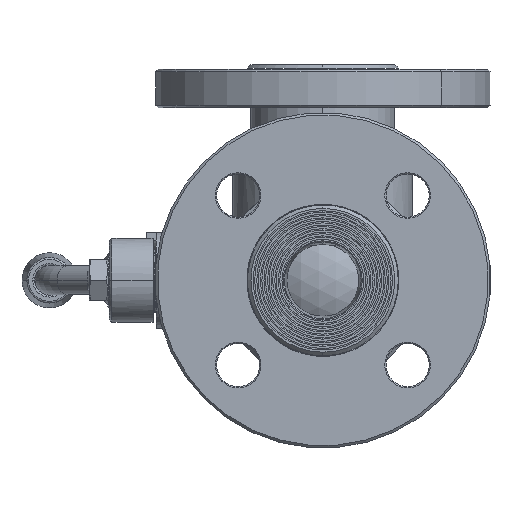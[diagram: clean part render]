
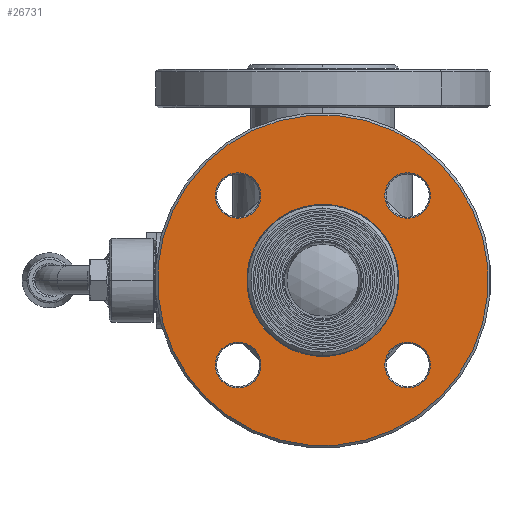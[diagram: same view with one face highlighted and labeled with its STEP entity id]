
A CAD part, left-side view. The second image highlights one B-rep face of the part: STEP entity #26731.
In plain terms, the highlighted planar face has unit normal (-1, 0, 0).
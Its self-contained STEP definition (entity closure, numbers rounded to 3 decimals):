
#25692=CARTESIAN_POINT('',(-88.,-35.355,-35.355));
#25693=DIRECTION('',(1.,0.,0.));
#25694=DIRECTION('',(0.,-0.707,-0.707));
#25695=AXIS2_PLACEMENT_3D('',#25692,#25693,#25694);
#25722=CARTESIAN_POINT('',(-88.,0.,
0.));
#25723=DIRECTION('',(-1.,0.,0.));
#25724=DIRECTION('',(0.,0.707,0.707));
#25725=AXIS2_PLACEMENT_3D('',#25722,#25723,#25724);
#25730=CARTESIAN_POINT('',(-88.,0.,
0.));
#25731=DIRECTION('',(-1.,0.,0.));
#25732=DIRECTION('',(0.,-0.707,-0.707));
#25733=AXIS2_PLACEMENT_3D('',#25730,#25731,#25732);
#25738=CARTESIAN_POINT('',(-88.,0.,
0.));
#25739=DIRECTION('',(-1.,0.,0.));
#25740=DIRECTION('',(0.,0.707,0.707));
#25741=AXIS2_PLACEMENT_3D('',#25738,#25739,#25740);
#25746=CARTESIAN_POINT('',(-88.,0.,
0.));
#25747=DIRECTION('',(-1.,0.,0.));
#25748=DIRECTION('',(0.,-0.707,-0.707));
#25749=AXIS2_PLACEMENT_3D('',#25746,#25747,#25748);
#25754=CARTESIAN_POINT('',(-88.,-35.355,-35.355));
#25755=DIRECTION('',(1.,0.,0.));
#25756=DIRECTION('',(0.,0.707,0.707));
#25757=AXIS2_PLACEMENT_3D('',#25754,#25755,#25756);
#25770=CARTESIAN_POINT('',(-88.,35.355,-35.355));
#25771=DIRECTION('',(1.,0.,0.));
#25772=DIRECTION('',(0.,-0.707,-0.707));
#25773=AXIS2_PLACEMENT_3D('',#25770,#25771,#25772);
#25800=CARTESIAN_POINT('',(-88.,35.355,-35.355));
#25801=DIRECTION('',(1.,0.,0.));
#25802=DIRECTION('',(0.,0.707,0.707));
#25803=AXIS2_PLACEMENT_3D('',#25800,#25801,#25802);
#25876=CARTESIAN_POINT('',(-88.,35.355,35.355));
#25877=DIRECTION('',(1.,0.,0.));
#25878=DIRECTION('',(0.,-0.707,-0.707));
#25879=AXIS2_PLACEMENT_3D('',#25876,#25877,#25878);
#25892=CARTESIAN_POINT('',(-88.,35.355,35.355));
#25893=DIRECTION('',(1.,0.,0.));
#25894=DIRECTION('',(0.,0.707,0.707));
#25895=AXIS2_PLACEMENT_3D('',#25892,#25893,#25894);
#25982=CARTESIAN_POINT('',(-88.,-35.355,35.355));
#25983=DIRECTION('',(1.,0.,0.));
#25984=DIRECTION('',(0.,-0.707,-0.707));
#25985=AXIS2_PLACEMENT_3D('',#25982,#25983,#25984);
#26012=CARTESIAN_POINT('',(-88.,-35.355,35.355));
#26013=DIRECTION('',(1.,0.,0.));
#26014=DIRECTION('',(0.,0.707,0.707));
#26015=AXIS2_PLACEMENT_3D('',#26012,#26013,#26014);
#26470=CARTESIAN_POINT('',(-88.,-28.638,42.073));
#26471=CARTESIAN_POINT('',(-88.,-42.073,28.638));
#26472=VERTEX_POINT('',#26470);
#26473=VERTEX_POINT('',#26471);
#26478=CARTESIAN_POINT('',(-88.,28.638,28.638));
#26479=CARTESIAN_POINT('',(-88.,42.073,42.073));
#26480=VERTEX_POINT('',#26478);
#26481=VERTEX_POINT('',#26479);
#26486=CARTESIAN_POINT('',(-88.,42.073,-28.638));
#26487=CARTESIAN_POINT('',(-88.,28.638,-42.073));
#26488=VERTEX_POINT('',#26486);
#26489=VERTEX_POINT('',#26487);
#26494=CARTESIAN_POINT('',(-88.,-28.638,-28.638));
#26495=CARTESIAN_POINT('',(-88.,-42.073,-42.073));
#26496=VERTEX_POINT('',#26494);
#26497=VERTEX_POINT('',#26495);
#26534=CARTESIAN_POINT('',(-88.,22.451,
22.451));
#26535=CARTESIAN_POINT('',(-88.,-22.451,
-22.451));
#26536=VERTEX_POINT('',#26534);
#26537=VERTEX_POINT('',#26535);
#26550=CARTESIAN_POINT('',(-88.,48.79,
48.79));
#26551=CARTESIAN_POINT('',(-88.,-48.79,
-48.79));
#26552=VERTEX_POINT('',#26550);
#26553=VERTEX_POINT('',#26551);
#26691=CARTESIAN_POINT('',(-88.,0.,0.));
#26692=DIRECTION('',(-1.,0.,0.));
#26693=DIRECTION('',(0.,-0.707,-0.707));
#26694=AXIS2_PLACEMENT_3D('',#26691,#26692,#26693);
#26695=PLANE('',#26694);
#26697=ORIENTED_EDGE('',*,*,#26696,.F.);
#26699=ORIENTED_EDGE('',*,*,#26698,.F.);
#26700=EDGE_LOOP('',(#26697,#26699));
#26701=FACE_OUTER_BOUND('',#26700,.F.);
#26703=ORIENTED_EDGE('',*,*,#26702,.F.);
#26705=ORIENTED_EDGE('',*,*,#26704,.F.);
#26706=EDGE_LOOP('',(#26703,#26705));
#26707=FACE_BOUND('',#26706,.F.);
#26709=ORIENTED_EDGE('',*,*,#26708,.F.);
#26711=ORIENTED_EDGE('',*,*,#26710,.F.);
#26712=EDGE_LOOP('',(#26709,#26711));
#26713=FACE_BOUND('',#26712,.F.);
#26715=ORIENTED_EDGE('',*,*,#26714,.F.);
#26717=ORIENTED_EDGE('',*,*,#26716,.F.);
#26718=EDGE_LOOP('',(#26715,#26717));
#26719=FACE_BOUND('',#26718,.F.);
#26721=ORIENTED_EDGE('',*,*,#26720,.T.);
#26723=ORIENTED_EDGE('',*,*,#26722,.T.);
#26724=EDGE_LOOP('',(#26721,#26723));
#26725=FACE_BOUND('',#26724,.F.);
#26726=ORIENTED_EDGE('',*,*,#26681,.F.);
#26728=ORIENTED_EDGE('',*,*,#26727,.F.);
#26729=EDGE_LOOP('',(#26726,#26728));
#26730=FACE_BOUND('',#26729,.F.);
#26731=ADVANCED_FACE('',(#26701,#26707,#26713,#26719,#26725,#26730),#26695,.T.);
#25696=CIRCLE('',#25695,9.5);
#25726=CIRCLE('',#25725,31.75);
#25734=CIRCLE('',#25733,31.75);
#25742=CIRCLE('',#25741,69.);
#25750=CIRCLE('',#25749,69.);
#25758=CIRCLE('',#25757,9.5);
#25774=CIRCLE('',#25773,9.5);
#25804=CIRCLE('',#25803,9.5);
#25880=CIRCLE('',#25879,9.5);
#25896=CIRCLE('',#25895,9.5);
#25986=CIRCLE('',#25985,9.5);
#26016=CIRCLE('',#26015,9.5);
#26681=EDGE_CURVE('',#26497,#26496,#25696,.T.);
#26696=EDGE_CURVE('',#26552,#26553,#25742,.T.);
#26698=EDGE_CURVE('',#26553,#26552,#25750,.T.);
#26702=EDGE_CURVE('',#26489,#26488,#25774,.T.);
#26704=EDGE_CURVE('',#26488,#26489,#25804,.T.);
#26708=EDGE_CURVE('',#26480,#26481,#25880,.T.);
#26710=EDGE_CURVE('',#26481,#26480,#25896,.T.);
#26714=EDGE_CURVE('',#26473,#26472,#25986,.T.);
#26716=EDGE_CURVE('',#26472,#26473,#26016,.T.);
#26720=EDGE_CURVE('',#26536,#26537,#25726,.T.);
#26722=EDGE_CURVE('',#26537,#26536,#25734,.T.);
#26727=EDGE_CURVE('',#26496,#26497,#25758,.T.);
